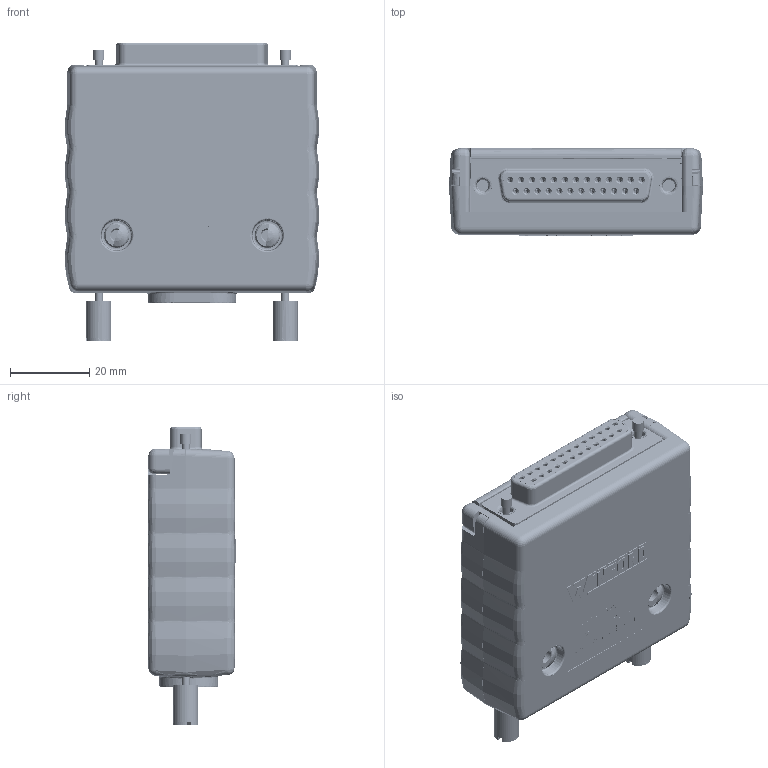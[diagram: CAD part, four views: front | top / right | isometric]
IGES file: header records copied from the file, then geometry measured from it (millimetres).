
Start section: SolidWorks IGES file using analytic representation for surfaces
Global section: file name: C:\Users\mudhf\Desktop\DB25 Enclosure\brkegd25f-t_rev_a.igs; native system: SolidWorks 2017; preprocessor: SolidWorks 2017; author: mudhf; date: 201227.200550; units: inch
Bounding box: 64.19 x 22 x 75.52 mm (x, y, z)
Surface area: 58086.1 mm2 (no closed solid volume)
Topology: 0 solids, 0 shells, 20101 faces, 127927 edges, 127907 vertices
Faces by surface type: bspline 14603, revolution 5498
